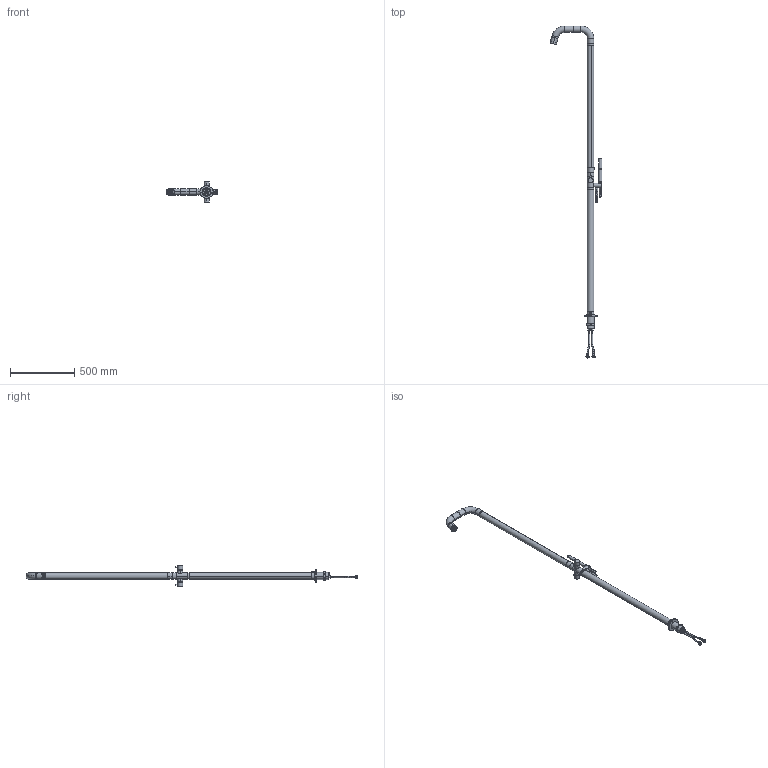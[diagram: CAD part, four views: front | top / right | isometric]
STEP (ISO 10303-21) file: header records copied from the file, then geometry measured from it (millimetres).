
FILE_DESCRIPTION (( 'STEP AP214' ), '1' );
FILE_NAME ('DS_5020C.STEP', '2025-12-15T15:30:30', ( '' ), ( '' ), 'SwSTEP 2.0', 'SolidWorks 2025', '' );
FILE_SCHEMA (( 'AUTOMOTIVE_DESIGN' ));
Length unit declared in the file: millimetre
Products named in the file (1): DS_5020C
Bounding box: 402.64 x 2583.44 x 158.2 mm (x, y, z)
Surface area: 517717 mm2 (no closed solid volume)
Topology: 0 solids, 91 shells, 338 faces, 1502 edges, 1209 vertices
Faces by surface type: cylinder 128, plane 92, torus 56, cone 54, bspline 4, sphere 4
Entity records: 19274 total; most frequent: CARTESIAN_POINT 7386, DIRECTION 2485, ORIENTED_EDGE 2026, EDGE_CURVE 1502, VERTEX_POINT 1209, AXIS2_PLACEMENT_3D 1045, CIRCLE 710, EDGE_LOOP 486
